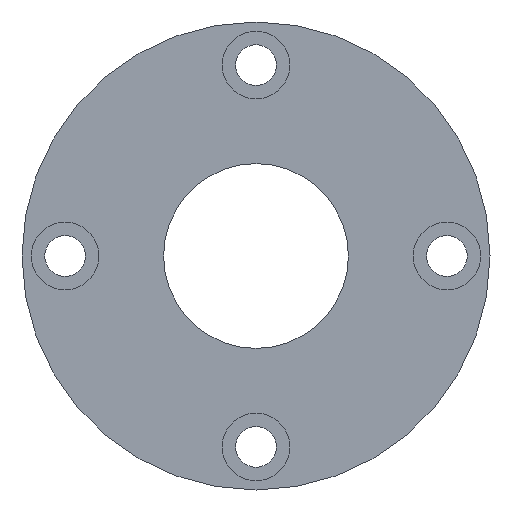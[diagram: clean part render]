
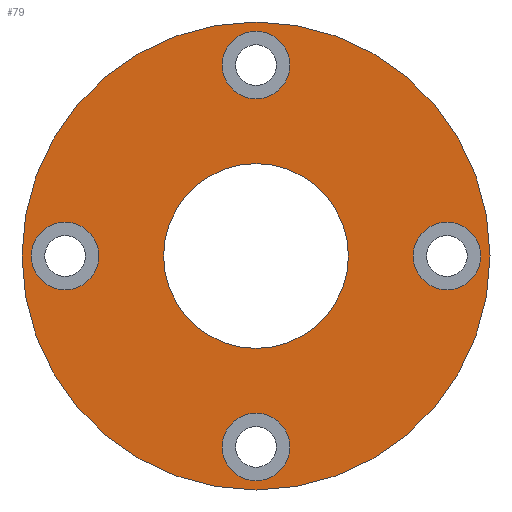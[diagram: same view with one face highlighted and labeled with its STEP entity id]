
A CAD part, left-side view. The second image highlights one B-rep face of the part: STEP entity #79.
In plain terms, the highlighted planar face has unit normal (-1, 0, 0).
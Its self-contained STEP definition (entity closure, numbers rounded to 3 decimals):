
#79 = ADVANCED_FACE( '', ( #110, #111, #112, #113, #114, #115 ), #116, .T. );
#110 = FACE_BOUND( '', #172, .T. );
#111 = FACE_BOUND( '', #173, .T. );
#112 = FACE_BOUND( '', #174, .T. );
#113 = FACE_BOUND( '', #175, .T. );
#114 = FACE_BOUND( '', #176, .T. );
#115 = FACE_OUTER_BOUND( '', #177, .T. );
#116 = PLANE( '', #178 );
#172 = EDGE_LOOP( '', ( #242 ) );
#173 = EDGE_LOOP( '', ( #243 ) );
#174 = EDGE_LOOP( '', ( #244 ) );
#175 = EDGE_LOOP( '', ( #245 ) );
#176 = EDGE_LOOP( '', ( #246 ) );
#177 = EDGE_LOOP( '', ( #247 ) );
#178 = AXIS2_PLACEMENT_3D( '', #248, #249, #250 );
#242 = ORIENTED_EDGE( '', *, *, #324, .T. );
#243 = ORIENTED_EDGE( '', *, *, #325, .T. );
#244 = ORIENTED_EDGE( '', *, *, #326, .T. );
#245 = ORIENTED_EDGE( '', *, *, #327, .T. );
#246 = ORIENTED_EDGE( '', *, *, #328, .T. );
#247 = ORIENTED_EDGE( '', *, *, #329, .F. );
#248 = CARTESIAN_POINT( '', ( 0., 38., 0. ) );
#249 = DIRECTION( '', ( -1., 0., 0. ) );
#250 = DIRECTION( '', ( 0., 0., 1. ) );
#324 = EDGE_CURVE( '', #354, #354, #355, .T. );
#325 = EDGE_CURVE( '', #356, #356, #357, .F. );
#326 = EDGE_CURVE( '', #358, #358, #359, .T. );
#327 = EDGE_CURVE( '', #360, #360, #361, .T. );
#328 = EDGE_CURVE( '', #362, #362, #363, .T. );
#329 = EDGE_CURVE( '', #364, #364, #365, .T. );
#354 = VERTEX_POINT( '', #398 );
#355 = CIRCLE( '', #399, 15. );
#356 = VERTEX_POINT( '', #400 );
#357 = CIRCLE( '', #401, 5.5 );
#358 = VERTEX_POINT( '', #402 );
#359 = CIRCLE( '', #403, 5.5 );
#360 = VERTEX_POINT( '', #404 );
#361 = CIRCLE( '', #405, 5.5 );
#362 = VERTEX_POINT( '', #406 );
#363 = CIRCLE( '', #407, 5.5 );
#364 = VERTEX_POINT( '', #408 );
#365 = CIRCLE( '', #409, 38. );
#398 = CARTESIAN_POINT( '', ( 0., 0., -15. ) );
#399 = AXIS2_PLACEMENT_3D( '', #450, #451, #452 );
#400 = CARTESIAN_POINT( '', ( 0., 31., 5.5 ) );
#401 = AXIS2_PLACEMENT_3D( '', #453, #454, #455 );
#402 = CARTESIAN_POINT( '', ( 0., 0., 25.5 ) );
#403 = AXIS2_PLACEMENT_3D( '', #456, #457, #458 );
#404 = CARTESIAN_POINT( '', ( 0., 0., -36.5 ) );
#405 = AXIS2_PLACEMENT_3D( '', #459, #460, #461 );
#406 = CARTESIAN_POINT( '', ( 0., -31., -5.5 ) );
#407 = AXIS2_PLACEMENT_3D( '', #462, #463, #464 );
#408 = CARTESIAN_POINT( '', ( 0., 0., -38. ) );
#409 = AXIS2_PLACEMENT_3D( '', #465, #466, #467 );
#450 = CARTESIAN_POINT( '', ( 0., 0., 0. ) );
#451 = DIRECTION( '', ( 1., 0., 0. ) );
#452 = DIRECTION( '', ( 0., 0., -1. ) );
#453 = CARTESIAN_POINT( '', ( 0., 31., 0. ) );
#454 = DIRECTION( '', ( -1., 0., 0. ) );
#455 = DIRECTION( '', ( 0., 0., 1. ) );
#456 = CARTESIAN_POINT( '', ( 0., 0., 31. ) );
#457 = DIRECTION( '', ( 1., 0., 0. ) );
#458 = DIRECTION( '', ( 0., 0., -1. ) );
#459 = CARTESIAN_POINT( '', ( 0., 0., -31. ) );
#460 = DIRECTION( '', ( 1., 0., 0. ) );
#461 = DIRECTION( '', ( 0., 0., -1. ) );
#462 = CARTESIAN_POINT( '', ( 0., -31., 0. ) );
#463 = DIRECTION( '', ( 1., 0., 0. ) );
#464 = DIRECTION( '', ( 0., 0., -1. ) );
#465 = CARTESIAN_POINT( '', ( 0., 0., 0. ) );
#466 = DIRECTION( '', ( 1., 0., 0. ) );
#467 = DIRECTION( '', ( 0., 0., -1. ) );
